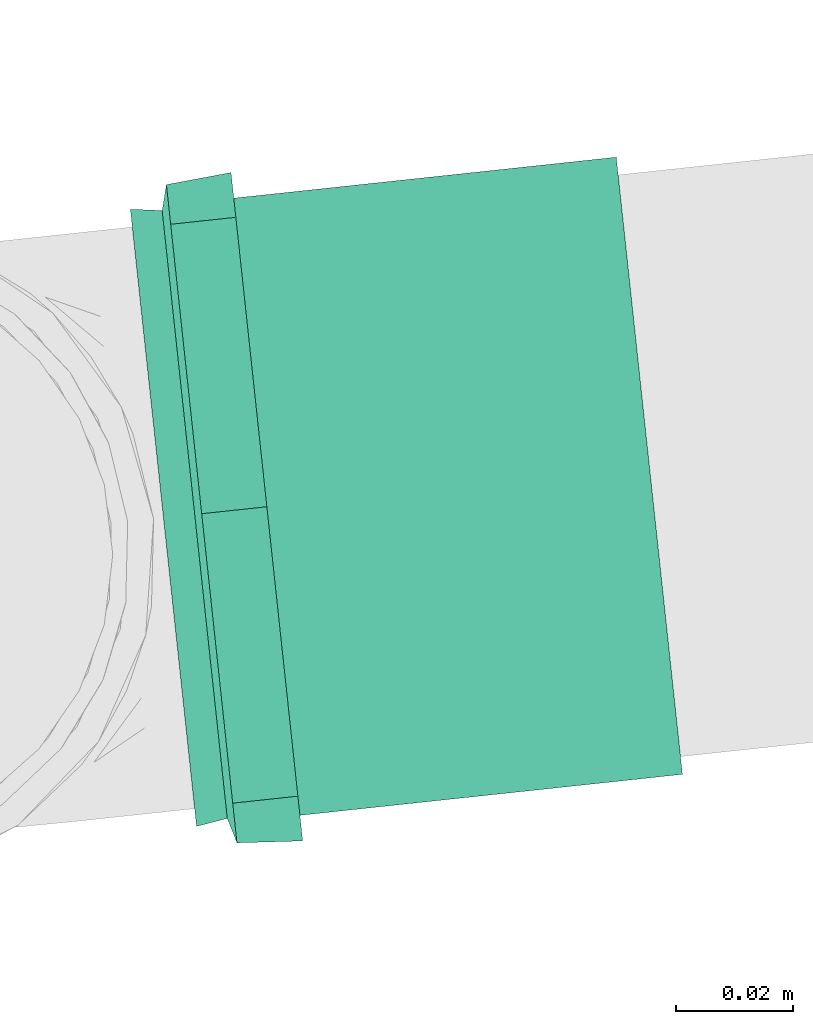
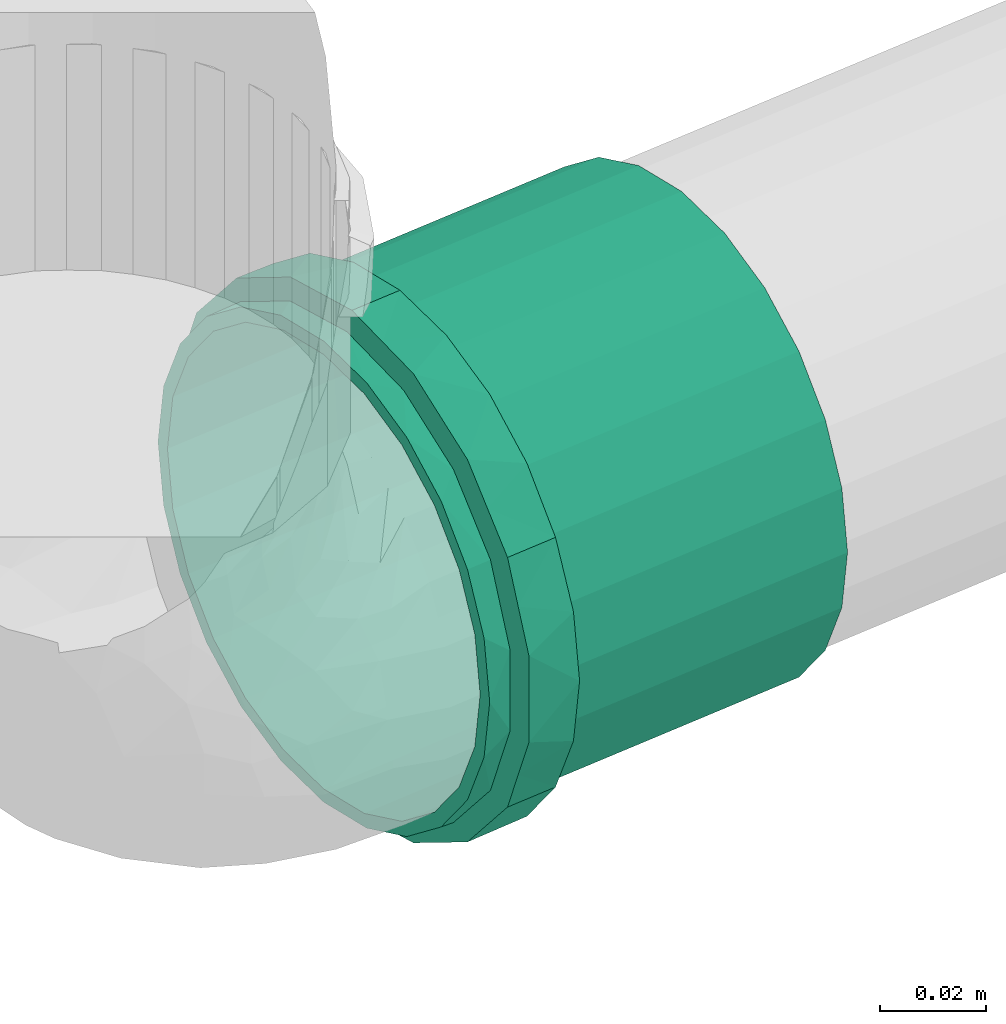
# One storey, part 44 of 97: 1 flow fitting.
"""IFC2X3 building model written with IfcOpenShell, lengths in centimetres."""

import ifcopenshell
import ifcopenshell.guid

model = None  # the IFC model being written
_history = None  # IfcOwnerHistory: only IFC2X3 demands one
_inside = {}  # id of a spatial element -> (the spatial element, [elements in it])
_under = {}  # id of a project, library or spatial element -> (it, [spatial elements below it])
_declared = {}  # id of a project -> (the project, [libraries it declares])
_typed = {}  # id of a type object -> (the type object, [elements of that type])
_made_of = {}  # id of a material, layer set ... -> (it, [elements and type objects made of it])


def new_model(schema):
    """Start an empty IFC model of exactly this schema.

    Asked for "IFC4X3", IfcOpenShell would pick the latest addendum, in which some entities
    have other attributes; the version numbers below select the first issue.
    IFC2X3 requires an IfcOwnerHistory on every rooted entity: one is made here for all.
    """
    global model, _history
    if schema == "IFC4X3":
        model = ifcopenshell.file(schema_version=(4, 3, 0, 0))
    else:
        model = ifcopenshell.file(schema=schema)
    _inside.clear()
    _under.clear()
    _declared.clear()
    _typed.clear()
    _made_of.clear()
    _history = None
    if model.schema == "IFC2X3":
        org = make("IfcOrganization", Name="unknown")
        user = make(
            "IfcPersonAndOrganization",
            ThePerson=make("IfcPerson", FamilyName="unknown"),
            TheOrganization=org,
        )
        app = make(
            "IfcApplication",
            ApplicationDeveloper=org,
            Version="unknown",
            ApplicationFullName="unknown",
            ApplicationIdentifier="unknown",
        )
        _history = make(
            "IfcOwnerHistory",
            OwningUser=user,
            OwningApplication=app,
            ChangeAction="ADDED",
            CreationDate=0,
        )
    return model


def make(cls, **values):
    """One entity of the class cls with the attributes given. An attribute that is None is left unset."""
    return model.create_entity(
        cls, **{name: value for name, value in values.items() if value is not None}
    )


def entity(cls, *values):
    """Any entity or typed value of the class cls, its attributes in the order of the schema. None: left unset."""
    e = model.create_entity(cls)
    for i, value in enumerate(values):
        if value is not None:
            e[i] = value
    return e


def rooted(cls, **values):
    """An entity with a GlobalId (a new one), such as an element, a storey or a relation."""
    return make(cls, GlobalId=ifcopenshell.guid.new(), OwnerHistory=_history, **values)


def si_unit(unit_type, name, prefix=None):
    """IfcSIUnit, for example si_unit("LENGTHUNIT", "METRE", prefix="MILLI")."""
    return make("IfcSIUnit", UnitType=unit_type, Prefix=prefix, Name=name)


def converted_unit(unit_type, name, factor, base, dimensions=None, offset=None):
    """IfcConversionBasedUnit, such as the inch: factor (a typed value) times the base unit."""
    return make(
        "IfcConversionBasedUnit"
        if offset is None
        else "IfcConversionBasedUnitWithOffset",
        ConversionOffset=offset,
        Dimensions=None
        if dimensions is None
        else entity("IfcDimensionalExponents", *dimensions),
        UnitType=unit_type,
        Name=name,
        ConversionFactor=make(
            "IfcMeasureWithUnit", ValueComponent=factor, UnitComponent=base
        ),
    )


def derived_unit(unit_type, elements):
    """IfcDerivedUnit: a product of units, each with its exponent."""
    return make(
        "IfcDerivedUnit",
        Elements=[
            make("IfcDerivedUnitElement", Unit=unit, Exponent=power)
            for unit, power in elements
        ],
        UnitType=unit_type,
    )


def assignment(units):
    """IfcUnitAssignment: the units of a project."""
    return None if units is None else make("IfcUnitAssignment", Units=units)


def point(xyz):
    """IfcCartesianPoint."""
    return None if xyz is None else make("IfcCartesianPoint", Coordinates=xyz)


def direction(xyz):
    """IfcDirection."""
    return None if xyz is None else make("IfcDirection", DirectionRatios=xyz)


def frame(location, z_axis=None, x_axis=None):
    """IfcAxis2Placement3D, a coordinate frame: its origin and axes. An axis left out is left unset."""
    return make(
        "IfcAxis2Placement3D",
        Location=point(location),
        Axis=direction(z_axis),
        RefDirection=direction(x_axis),
    )


def origin():
    """The frame at (0, 0, 0) with its axes left unset."""
    return frame((0.0, 0.0, 0.0))


def place(relative_to, where):
    """IfcLocalPlacement: puts the frame where relative to a parent placement (None: the world)."""
    return make(
        "IfcLocalPlacement", PlacementRelTo=relative_to, RelativePlacement=where
    )


def context(
    kind, dimensions, precision=None, world=None, true_north=None, identifier=None
):
    """IfcGeometricRepresentationContext, for example the 3D "Model" context."""
    return make(
        "IfcGeometricRepresentationContext",
        ContextIdentifier=identifier,
        ContextType=kind,
        CoordinateSpaceDimension=dimensions,
        Precision=precision,
        WorldCoordinateSystem=world,
        TrueNorth=true_north,
    )


def subcontext(parent, identifier, kind, view, scale=None):
    """IfcGeometricRepresentationSubContext, for example "Body" below "Model"."""
    return make(
        "IfcGeometricRepresentationSubContext",
        ContextIdentifier=identifier,
        ContextType=kind,
        ParentContext=parent,
        TargetScale=scale,
        TargetView=view,
    )


def project(units=None, contexts=None):
    """IfcProject with its units and contexts."""
    return rooted(
        "IfcProject",
        Name="project",
        RepresentationContexts=contexts,
        UnitsInContext=assignment(units),
    )


def spatial(cls, under=None, at=None, **own):
    """A site, building, storey or space (cls), placed at a placement, below another one or the project."""
    s = rooted(cls, ObjectPlacement=at, **own)
    if under is not None:
        _under.setdefault(under.id(), (under, []))[1].append(s)
    return s


def faces_of(points, faces, orient=None, outer=None):
    """IfcFace entities. A face is a list of loops; a loop is a list of indices into points, from 0.

    orient and outer hold one flag for each loop. By default every Orientation is true, the
    first loop of a face is its IfcFaceOuterBound and the others are IfcFaceBound.
    """
    made = []
    for i, loops in enumerate(faces):
        bounds = []
        for j, loop in enumerate(loops):
            is_outer = j == 0 if outer is None else outer[i][j]
            bounds.append(
                make(
                    "IfcFaceOuterBound" if is_outer else "IfcFaceBound",
                    Bound=make("IfcPolyLoop", Polygon=[points[k] for k in loop]),
                    Orientation=True if orient is None else orient[i][j],
                )
            )
        made.append(make("IfcFace", Bounds=bounds))
    return made


def faceted_brep(points, faces, orient=None, outer=None, voids=None):
    """IfcFacetedBrep: a solid bounded by flat faces; with voids (closed shells), ...WithVoids."""
    shared = [point(p) for p in points]
    hull = make("IfcClosedShell", CfsFaces=faces_of(shared, faces, orient, outer))
    if voids is None:
        return make("IfcFacetedBrep", Outer=hull)
    return make(
        "IfcFacetedBrepWithVoids",
        Outer=hull,
        Voids=[
            make(cls, CfsFaces=faces_of(shared, fs, o, b)) for cls, fs, o, b in voids
        ],
    )


def shape(context_of_items, identifier, shape_type, items):
    """IfcShapeRepresentation: the items that make up one representation, for example the "Body"."""
    return make(
        "IfcShapeRepresentation",
        ContextOfItems=context_of_items,
        RepresentationIdentifier=identifier,
        RepresentationType=shape_type,
        Items=items,
    )


def source(mapping_origin, context_of_items, identifier, shape_type, items):
    """IfcRepresentationMap: a shape defined once, which mapped items show again and again."""
    return make(
        "IfcRepresentationMap",
        MappingOrigin=mapping_origin,
        MappedRepresentation=shape(context_of_items, identifier, shape_type, items),
    )


def transform(
    local_origin,
    x_axis=None,
    y_axis=None,
    z_axis=None,
    scale=None,
    scale2=None,
    scale3=None,
    uniform=True,
):
    """IfcCartesianTransformationOperator3D, or its non-uniform kind. x_axis, y_axis, z_axis: its Axis1, 2, 3."""
    if uniform:
        return make(
            "IfcCartesianTransformationOperator3D",
            Axis1=direction(x_axis),
            Axis2=direction(y_axis),
            LocalOrigin=point(local_origin),
            Scale=scale,
            Axis3=direction(z_axis),
        )
    return make(
        "IfcCartesianTransformationOperator3DnonUniform",
        Axis1=direction(x_axis),
        Axis2=direction(y_axis),
        LocalOrigin=point(local_origin),
        Scale=scale,
        Axis3=direction(z_axis),
        Scale2=scale2,
        Scale3=scale3,
    )


def mapped(mapping_source, mapping_target):
    """IfcMappedItem: shows the shape of a source again, moved by a transform."""
    return make(
        "IfcMappedItem", MappingSource=mapping_source, MappingTarget=mapping_target
    )


def material(Name=None, Category=None):
    """IfcMaterial."""
    return make("IfcMaterial", Name=Name, Category=Category)


def made_of(thing, what):
    """Note that an element or type object is made of a material, layer set ...; save() writes the relation."""
    if what is not None:
        _made_of.setdefault(what.id(), (what, []))[1].append(thing)
    return thing


def type_object(cls, material=None, **own):
    """A type object (cls), such as IfcWallType, which elements share."""
    return made_of(rooted(cls, **own), material)


def type_shapes(of_type, sources):
    """Give a type object the sources (RepresentationMaps) that its elements show as mapped items."""
    of_type.RepresentationMaps = sources


def element(
    cls,
    number,
    at=None,
    inside=None,
    cuts=None,
    type_object=None,
    material=None,
    context=None,
    identifier="Body",
    shape_type=None,
    held_by="IfcProductDefinitionShape",
    body=None,
    shapes=None,
    **own,
):
    """One element of the class cls, such as IfcWall. Its Tag is "e" and its number.

    at: its placement. inside: the storey or other place that contains it. cuts: it is an
    opening in that element (IfcRelVoidsElement). A single representation is given by context,
    identifier, shape_type and body (its items); several are given by shapes. held_by: the class
    of the entity that holds the representations. save() writes the other relations.
    """
    e = rooted(cls, Tag="e%d" % number, ObjectPlacement=at, **own)
    if body is not None:
        shapes = [shape(context, identifier, shape_type, body)]
    if shapes is not None:
        e.Representation = make(held_by, Representations=shapes)
    if inside is not None:
        _inside.setdefault(inside.id(), (inside, []))[1].append(e)
    if cuts is not None:
        rooted(
            "IfcRelVoidsElement", RelatingBuildingElement=cuts, RelatedOpeningElement=e
        )
    if type_object is not None:
        _typed.setdefault(type_object.id(), (type_object, []))[1].append(e)
    return made_of(e, material)


def aggregate(whole, parts):
    """IfcRelAggregates: a whole, such as a stair, and the parts it consists of."""
    return rooted("IfcRelAggregates", RelatingObject=whole, RelatedObjects=parts)


def save(model, path):
    """Write the relations noted so far, then the file.

    IfcRelAggregates (storeys below a building ...), IfcRelContainedInSpatialStructure (elements
    in a storey), IfcRelDefinesByType, IfcRelAssociatesMaterial and IfcRelDeclares: one each for
    every whole, place, type object, material and project.
    """
    for whole, parts in _under.values():
        aggregate(whole, parts)
    for where, things in _inside.values():
        rooted(
            "IfcRelContainedInSpatialStructure",
            RelatedElements=things,
            RelatingStructure=where,
        )
    for kind, things in _typed.values():
        rooted("IfcRelDefinesByType", RelatedObjects=things, RelatingType=kind)
    for what, things in _made_of.values():
        rooted("IfcRelAssociatesMaterial", RelatedObjects=things, RelatingMaterial=what)
    for by, libraries in _declared.values():
        rooted("IfcRelDeclares", RelatingContext=by, RelatedDefinitions=libraries)
    model.write(path)


model = new_model("IFC2X3")

# Units and contexts
model_context = context("Model", 3, precision=0.001, world=origin(), true_north=direction((6.12303176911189e-17, 1.0)))
body_context = subcontext(model_context, "Body", "Model", "MODEL_VIEW")
ifc_project = project(units=[si_unit("LENGTHUNIT", "METRE", prefix="CENTI"), si_unit("AREAUNIT", "SQUARE_METRE"), si_unit("VOLUMEUNIT", "CUBIC_METRE"), converted_unit("PLANEANGLEUNIT", "DEGREE", entity("IfcRatioMeasure", 0.0174532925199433), si_unit("PLANEANGLEUNIT", "RADIAN"), dimensions=[0, 0, 0, 0, 0, 0, 0]), si_unit("MASSUNIT", "GRAM", prefix="KILO"), derived_unit("MASSDENSITYUNIT", [(si_unit("MASSUNIT", "GRAM", prefix="KILO"), 1), (si_unit("LENGTHUNIT", "METRE"), -3)]), derived_unit("MOMENTOFINERTIAUNIT", [(si_unit("LENGTHUNIT", "METRE"), 4)]), si_unit("TIMEUNIT", "SECOND"), si_unit("FREQUENCYUNIT", "HERTZ"), si_unit("THERMODYNAMICTEMPERATUREUNIT", "DEGREE_CELSIUS"), derived_unit("THERMALTRANSMITTANCEUNIT", [(si_unit("MASSUNIT", "GRAM", prefix="KILO"), 1), (si_unit("THERMODYNAMICTEMPERATUREUNIT", "KELVIN"), -1), (si_unit("TIMEUNIT", "SECOND"), -3)]), derived_unit("VOLUMETRICFLOWRATEUNIT", [(si_unit("LENGTHUNIT", "METRE"), 3), (si_unit("TIMEUNIT", "SECOND"), -1)]), si_unit("ELECTRICCURRENTUNIT", "AMPERE"), si_unit("ELECTRICVOLTAGEUNIT", "VOLT"), si_unit("POWERUNIT", "WATT"), si_unit("FORCEUNIT", "NEWTON", prefix="KILO"), si_unit("ILLUMINANCEUNIT", "LUX"), si_unit("LUMINOUSFLUXUNIT", "LUMEN"), si_unit("LUMINOUSINTENSITYUNIT", "CANDELA"), derived_unit("USERDEFINED", [(si_unit("MASSUNIT", "GRAM", prefix="KILO"), -1), (si_unit("LENGTHUNIT", "METRE"), -2), (si_unit("TIMEUNIT", "SECOND"), 3), (si_unit("LUMINOUSFLUXUNIT", "LUMEN"), 1)]), derived_unit("LINEARVELOCITYUNIT", [(si_unit("LENGTHUNIT", "METRE"), 1), (si_unit("TIMEUNIT", "SECOND"), -1)]), si_unit("PRESSUREUNIT", "PASCAL"), derived_unit("USERDEFINED", [(si_unit("LENGTHUNIT", "METRE"), -2), (si_unit("MASSUNIT", "GRAM", prefix="KILO"), 1), (si_unit("TIMEUNIT", "SECOND"), -2)]), derived_unit("LINEARFORCEUNIT", [(si_unit("MASSUNIT", "GRAM", prefix="KILO"), 1), (si_unit("LENGTHUNIT", "METRE"), 1), (si_unit("TIMEUNIT", "SECOND"), -2), (si_unit("LENGTHUNIT", "METRE"), -1)]), derived_unit("PLANARFORCEUNIT", [(si_unit("MASSUNIT", "GRAM", prefix="KILO"), 1), (si_unit("LENGTHUNIT", "METRE"), 1), (si_unit("TIMEUNIT", "SECOND"), -2), (si_unit("LENGTHUNIT", "METRE"), -2)])], contexts=[model_context])

# Site, building, storey
site_placement = place(None, origin())
site = spatial("IfcSite", under=ifc_project, at=site_placement, Name="Default", CompositionType="ELEMENT")
building_placement = place(site_placement, origin())
building = spatial("IfcBuilding", under=site, at=building_placement, Name="HIDROSSANITÁRIO", CompositionType="ELEMENT")
storey_placement = place(building_placement, frame((0.0, 0.0, -260.0)))
storey = spatial("IfcBuildingStorey", under=building, at=storey_placement, Name="TÉRREO-HID", CompositionType="ELEMENT", Elevation=-260.0)

# Flow fitting
ifc_material = material(Name="PVC Branco")
pipe_fitting_type = type_object("IfcPipeFittingType", Name="Luva Simples para Conexão - Serie Normal - Esgoto - MEP - Tigre:Standard", PredefinedType="NOTDEFINED", material=ifc_material)
shared_shape = source(origin(), body_context, "Body", "Brep", [
    faceted_brep([(1.77700000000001, 2.8725, -4.9753159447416), (1.77700000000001, 4.06232845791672, -4.06232845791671), (1.77700000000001, 2.65249999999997, -4.59426476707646), (1.77700000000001, 1.37303503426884, -5.12423650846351), (1.77700000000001, 1.48691541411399, -5.5492438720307), (1.77700000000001, 3.75120147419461, -3.75120147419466), (1.77700000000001, 4.9753159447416, -2.8725), (1.77700000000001, 4.59426476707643, -2.65250000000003), (1.77700000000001, 5.1242365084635, -1.37303503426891), (1.77700000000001, 5.5492438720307, -1.48691541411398), (1.77700000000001, 5.305, 0.0), (1.77700000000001, 5.745, 0.0), (1.77700000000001, 5.1242365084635, 1.3730350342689), (1.77700000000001, 5.54924387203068, 1.48691541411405), (1.77700000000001, 4.59426476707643, 2.65250000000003), (1.77700000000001, 4.97531594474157, 2.87250000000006), (1.77700000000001, 3.75120147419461, 3.75120147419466), (1.77700000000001, 4.06232845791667, 4.06232845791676), (1.77700000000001, 2.65249999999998, 4.59426476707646), (1.77700000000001, 2.87249999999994, 4.97531594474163), (1.77700000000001, 1.37303503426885, 5.12423650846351), (1.77700000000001, 1.48691541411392, 5.54924387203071), (1.77700000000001, 0.0, 5.305), (1.77700000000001, 0.0, 5.745), (1.77700000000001, -1.37303503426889, 5.1242365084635), (1.77700000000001, -1.48691541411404, 5.54924387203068), (1.77700000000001, -2.65250000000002, 4.59426476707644), (1.77700000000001, -2.87250000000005, 4.97531594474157), (1.77700000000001, -3.75120147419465, 3.75120147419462), (1.77700000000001, -4.06232845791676, 4.06232845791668), (1.77700000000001, -4.59426476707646, 2.65249999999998), (1.77700000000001, -4.97531594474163, 2.87249999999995), (1.77700000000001, -5.54924387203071, 1.48691541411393), (1.77700000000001, -5.12423650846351, 1.37303503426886), (1.77700000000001, -5.745, 0.0), (1.77700000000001, -5.305, 0.0), (1.77700000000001, -5.54924387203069, -1.486915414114), (1.77700000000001, -5.12423650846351, -1.37303503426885), (1.77700000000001, -4.97531594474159, -2.87250000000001), (1.77700000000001, -4.59426476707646, -2.65249999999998), (1.77700000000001, -4.06232845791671, -4.06232845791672), (1.77700000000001, -3.75120147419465, -3.75120147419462), (1.77700000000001, -2.87249999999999, -4.97531594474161), (1.77700000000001, -2.65250000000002, -4.59426476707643), (1.77700000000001, -1.48691541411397, -5.5492438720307), (1.77700000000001, -1.3730350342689, -5.1242365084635), (1.77700000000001, 0.0, -5.745), (1.77700000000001, 0.0, -5.305), (0.657000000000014, -1.93463887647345, 5.31665771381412), (0.657000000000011, -4.4007619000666, 3.69300957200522), (0.657000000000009, -4.89962626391, 2.82901737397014), (0.657000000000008, -5.39849062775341, 1.96502517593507), (0.657000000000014, -2.87216972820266, 4.97550661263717), (0.657000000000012, -3.63646581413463, 4.3342580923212), (0.657000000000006, -5.5717453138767, 0.982512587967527), (0.657000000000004, -5.745, 0.0), (0.657000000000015, -0.997108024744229, 5.65780881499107), (0.657000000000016, 0.998234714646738, 5.65761013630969), (0.657000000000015, 0.0005633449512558, 5.65770947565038), (0.657000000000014, 3.63732887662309, 4.33353383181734), (0.657000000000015, 1.93569761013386, 5.31627233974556), (0.657000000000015, 2.87316050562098, 4.97493454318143), (0.65700000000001, 5.39888184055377, 1.96395006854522), (0.657000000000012, 4.90018954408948, 2.82804159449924), (0.657000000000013, 4.40149724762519, 3.69213312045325), (0.657000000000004, 5.745, 0.0), (0.656999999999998, 4.40149724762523, -3.6921331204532), (0.657, 4.90018954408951, -2.82804159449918), (0.657000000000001, 5.39888184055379, -1.96395006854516), (0.656999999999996, 2.87316050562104, -4.9749345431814), (0.656999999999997, 3.63732887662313, -4.3335338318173), (0.656999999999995, 1.93569761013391, -5.31627233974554), (0.656999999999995, 0.998234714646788, -5.65761013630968), (0.656999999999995, -0.997108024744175, -5.65780881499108), (0.656999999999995, 0.000563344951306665, -5.65770947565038), (0.656999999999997, -3.6364658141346, -4.33425809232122), (0.656999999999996, -2.87216972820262, -4.9755066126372), (0.656999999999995, -1.9346388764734, -5.31665771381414), (0.657000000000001, -5.39849062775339, -1.96502517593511), (0.657, -4.89962626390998, -2.82901737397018), (0.656999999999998, -4.40076190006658, -3.69300957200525), (0.657000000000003, -5.5717453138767, -0.982512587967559), (8.35200000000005, 2.6525, -4.59426476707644), (8.35200000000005, 3.75120147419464, -3.75120147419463), (8.35200000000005, 2.49999999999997, -4.33012701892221), (8.35200000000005, 1.29409522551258, -4.82962913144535), (8.35200000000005, 1.37303503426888, -5.1242365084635), (8.35200000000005, 3.53553390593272, -3.53553390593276), (8.35200000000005, 4.59426476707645, -2.6525), (8.35200000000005, 4.33012701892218, -2.50000000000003), (8.35200000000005, 4.82962913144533, -1.29409522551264), (8.35200000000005, 5.12423650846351, -1.37303503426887), (8.35200000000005, 5.0, 0.0), (8.35200000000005, 5.305, 0.0), (8.35200000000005, 4.82962913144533, 1.29409522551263), (8.35200000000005, 5.12423650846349, 1.37303503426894), (8.35200000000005, 4.33012701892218, 2.50000000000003), (8.35200000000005, 4.59426476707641, 2.65250000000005), (8.35200000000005, 3.53553390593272, 3.53553390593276), (8.35200000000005, 3.75120147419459, 3.75120147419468), (8.35200000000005, 2.49999999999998, 4.33012701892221), (8.35200000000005, 2.65249999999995, 4.59426476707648), (8.35200000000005, 1.29409522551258, 4.82962913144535), (8.35200000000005, 1.37303503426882, 5.12423650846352), (8.35200000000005, 0.0, 5.0), (8.35200000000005, 0.0, 5.305), (8.35200000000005, -1.29409522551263, 4.82962913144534), (8.35200000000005, -1.37303503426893, 5.12423650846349), (8.35200000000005, -2.50000000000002, 4.33012701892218), (8.35200000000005, -2.65250000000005, 4.59426476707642), (8.35200000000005, -3.53553390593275, 3.53553390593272), (8.35200000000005, -3.75120147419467, 3.7512014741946), (8.35200000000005, -4.3301270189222, 2.49999999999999), (8.35200000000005, -4.59426476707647, 2.65249999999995), (8.35200000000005, -5.12423650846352, 1.37303503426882), (8.35200000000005, -4.82962913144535, 1.29409522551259), (8.35200000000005, -5.305, 0.0), (8.35200000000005, -5.0, 0.0), (8.35200000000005, -5.1242365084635, -1.37303503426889), (8.35200000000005, -4.82962913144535, -1.29409522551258), (8.35200000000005, -4.59426476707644, -2.65250000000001), (8.35200000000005, -4.3301270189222, -2.49999999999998), (8.35200000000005, -3.75120147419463, -3.75120147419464), (8.35200000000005, -3.53553390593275, -3.53553390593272), (8.35200000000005, -2.65249999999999, -4.59426476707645), (8.35200000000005, -2.50000000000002, -4.33012701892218), (8.35200000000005, -1.37303503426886, -5.12423650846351), (8.35200000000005, -1.29409522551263, -4.82962913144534), (8.35200000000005, 0.0, -5.305), (8.35200000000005, 0.0, -5.0), (0.0, 2.49999999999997, -4.33012701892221), (0.0, 3.75120147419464, -3.75120147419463), (0.0, 2.6525, -4.59426476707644), (0.0, 1.29409522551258, -4.82962913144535), (0.0, 3.53553390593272, -3.53553390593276), (0.0, 4.59426476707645, -2.6525), (0.0, 4.33012701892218, -2.50000000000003), (0.0, 4.82962913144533, -1.29409522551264), (0.0, 5.12423650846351, -1.37303503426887), (0.0, 5.0, 0.0), (0.0, 5.305, 0.0), (0.0, 4.82962913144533, 1.29409522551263), (0.0, 5.12423650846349, 1.37303503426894), (0.0, 4.33012701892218, 2.50000000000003), (0.0, 4.59426476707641, 2.65250000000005), (0.0, 3.53553390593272, 3.53553390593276), (0.0, 3.75120147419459, 3.75120147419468), (0.0, 2.49999999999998, 4.33012701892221), (0.0, 2.65249999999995, 4.59426476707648), (0.0, 1.29409522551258, 4.82962913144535), (0.0, 1.37303503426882, 5.12423650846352), (0.0, 0.0, 5.0), (0.0, 0.0, 5.305), (0.0, -1.29409522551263, 4.82962913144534), (0.0, -1.37303503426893, 5.12423650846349), (0.0, -2.50000000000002, 4.33012701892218), (0.0, -2.65250000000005, 4.59426476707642), (0.0, -3.53553390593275, 3.53553390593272), (0.0, -3.75120147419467, 3.7512014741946), (0.0, -4.3301270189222, 2.49999999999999), (0.0, -4.59426476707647, 2.65249999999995), (0.0, -5.12423650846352, 1.37303503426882), (0.0, -4.82962913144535, 1.29409522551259), (0.0, -5.305, 0.0), (0.0, -5.0, 0.0), (0.0, -5.1242365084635, -1.37303503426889), (0.0, -4.82962913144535, -1.29409522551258), (0.0, -4.59426476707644, -2.65250000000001), (0.0, -4.3301270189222, -2.49999999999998), (0.0, -3.75120147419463, -3.75120147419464), (0.0, -3.53553390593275, -3.53553390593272), (0.0, -2.65249999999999, -4.59426476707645), (0.0, -2.50000000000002, -4.33012701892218), (0.0, -1.37303503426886, -5.12423650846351), (0.0, -1.29409522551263, -4.82962913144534), (0.0, 0.0, -5.305), (0.0, 0.0, -5.0), (0.0, 1.37303503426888, -5.1242365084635), (0.537000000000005, -5.305, 0.0), (0.537000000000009, -4.98507989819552, 1.81438788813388), (0.537000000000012, -4.06390540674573, 3.4099410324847), (0.537000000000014, -2.65258010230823, 4.59421851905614), (0.537000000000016, -0.921325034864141, 5.22438371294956), (0.537000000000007, 5.1449924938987, 0.907324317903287), (0.537000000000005, 5.305, 0.0), (0.537000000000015, 2.65233979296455, 4.59435725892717), (0.537000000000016, 0.921051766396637, 5.22443189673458), (0.537000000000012, 4.06372704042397, 3.41015359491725), (0.537000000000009, 4.9849849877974, 1.81464863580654), (0.537000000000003, 5.14499249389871, -0.907324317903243), (0.537000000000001, 4.98498498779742, -1.81464863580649), (0.536999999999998, 4.063727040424, -3.41015359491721), (0.536999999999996, 2.6523397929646, -4.59435725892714), (0.536999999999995, 0.921051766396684, -5.22443189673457), (0.536999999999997, -2.6525801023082, -4.59421851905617), (0.536999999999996, -0.921325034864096, -5.22438371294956), (0.536999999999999, -4.0639054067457, -3.40994103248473), (0.537000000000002, -4.98507989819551, -1.81438788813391), (5.0, -5.0, 0.0), (5.0, 5.0, 0.0)], [[[0, 1, 2]], [[0, 2, 3]], [[3, 4, 0]], [[2, 1, 5]], [[6, 5, 1]], [[5, 6, 7]], [[7, 6, 8]], [[9, 8, 6]], [[9, 10, 8]], [[10, 9, 11]], [[12, 10, 11]], [[11, 13, 12]], [[12, 13, 14]], [[15, 14, 13]], [[14, 15, 16]], [[16, 15, 17]], [[18, 16, 17]], [[17, 19, 18]], [[18, 19, 20]], [[21, 20, 19]], [[20, 21, 22]], [[22, 21, 23]], [[22, 23, 24]], [[24, 23, 25]], [[24, 25, 26]], [[27, 26, 25]], [[27, 28, 26]], [[28, 27, 29]], [[29, 30, 28]], [[31, 30, 29]], [[30, 31, 32]], [[32, 33, 30]], [[34, 33, 32]], [[34, 35, 33]], [[36, 35, 34]], [[36, 37, 35]], [[37, 36, 38]], [[38, 39, 37]], [[39, 38, 40]], [[39, 40, 41]], [[40, 42, 41]], [[41, 42, 43]], [[43, 42, 44]], [[44, 45, 43]], [[46, 45, 44]], [[4, 47, 46]], [[46, 47, 45]], [[4, 3, 47]], [[48, 27, 25]], [[31, 29, 49]], [[31, 49, 50, 51]], [[52, 53, 27]], [[32, 51, 54]], [[54, 55, 34]], [[54, 34, 32]], [[25, 56, 48]], [[49, 29, 53]], [[23, 57, 58, 56]], [[59, 19, 17]], [[27, 53, 29]], [[48, 52, 27]], [[31, 51, 32]], [[57, 23, 21]], [[60, 19, 61]], [[15, 62, 63, 64]], [[19, 60, 21]], [[15, 13, 62]], [[17, 64, 59]], [[57, 21, 60]], [[23, 56, 25]], [[15, 64, 17]], [[13, 65, 62]], [[13, 11, 65]], [[59, 61, 19]], [[65, 11, 9]], [[6, 1, 66]], [[6, 66, 67, 68]], [[69, 70, 0]], [[68, 65, 9]], [[71, 69, 0]], [[71, 0, 4]], [[4, 72, 71]], [[66, 1, 70]], [[46, 73, 74, 72]], [[75, 76, 42]], [[0, 70, 1]], [[75, 42, 40]], [[6, 68, 9]], [[73, 46, 44]], [[77, 42, 76]], [[38, 78, 79, 80]], [[42, 77, 44]], [[38, 36, 78]], [[40, 80, 75]], [[73, 44, 77]], [[46, 72, 4]], [[38, 80, 40]], [[81, 78, 36]], [[55, 81, 34]], [[34, 81, 36]], [[82, 83, 84]], [[82, 84, 85]], [[85, 86, 82]], [[84, 83, 87]], [[88, 87, 83]], [[87, 88, 89]], [[89, 88, 90]], [[91, 90, 88]], [[91, 92, 90]], [[92, 91, 93]], [[94, 92, 93]], [[93, 95, 94]], [[94, 95, 96]], [[97, 96, 95]], [[96, 97, 98]], [[98, 97, 99]], [[100, 98, 99]], [[99, 101, 100]], [[100, 101, 102]], [[103, 102, 101]], [[102, 103, 104]], [[104, 103, 105]], [[104, 105, 106]], [[106, 105, 107]], [[106, 107, 108]], [[109, 108, 107]], [[110, 108, 109]], [[110, 109, 111]], [[111, 112, 110]], [[113, 112, 111]], [[112, 113, 114]], [[114, 115, 112]], [[116, 115, 114]], [[116, 117, 115]], [[118, 117, 116]], [[118, 119, 117]], [[119, 118, 120]], [[120, 121, 119]], [[121, 120, 122]], [[121, 122, 123]], [[122, 124, 123]], [[125, 123, 124]], [[125, 124, 126]], [[126, 127, 125]], [[128, 127, 126]], [[86, 129, 128]], [[128, 129, 127]], [[86, 85, 129]], [[130, 131, 132]], [[133, 130, 132]], [[134, 131, 130]], [[131, 134, 135]], [[136, 135, 134]], [[137, 135, 136]], [[135, 137, 138]], [[137, 139, 138]], [[140, 138, 139]], [[140, 139, 141]], [[141, 142, 140]], [[143, 142, 141]], [[142, 143, 144]], [[145, 144, 143]], [[146, 144, 145]], [[146, 145, 147]], [[147, 148, 146]], [[149, 148, 147]], [[148, 149, 150]], [[151, 150, 149]], [[152, 150, 151]], [[153, 152, 151]], [[154, 152, 153]], [[155, 154, 153]], [[154, 155, 156]], [[156, 155, 157]], [[158, 156, 157]], [[157, 159, 158]], [[158, 159, 160]], [[161, 160, 159]], [[159, 162, 161]], [[161, 162, 163]], [[162, 164, 163]], [[163, 164, 165]], [[164, 166, 165]], [[167, 165, 166]], [[166, 168, 167]], [[169, 167, 168]], [[170, 169, 168]], [[170, 171, 169]], [[171, 170, 172]], [[173, 171, 172]], [[172, 174, 173]], [[173, 174, 175]], [[174, 176, 175]], [[176, 133, 177]], [[175, 176, 177]], [[132, 177, 133]], [[161, 178, 179]], [[158, 180, 181]], [[179, 180, 160]], [[181, 182, 154]], [[179, 160, 161]], [[161, 163, 178]], [[35, 116, 114, 33]], [[183, 184, 140]], [[181, 156, 158]], [[158, 160, 180]], [[181, 154, 156]], [[182, 152, 154]], [[183, 140, 142]], [[185, 150, 186]], [[187, 146, 185]], [[142, 188, 183]], [[187, 188, 144]], [[185, 148, 150]], [[150, 152, 186]], [[187, 144, 146]], [[146, 148, 185]], [[188, 142, 144]], [[186, 152, 182]], [[189, 190, 138]], [[131, 191, 192]], [[190, 191, 135]], [[192, 193, 177]], [[190, 135, 138]], [[184, 189, 140]], [[192, 132, 131]], [[131, 135, 191]], [[192, 177, 132]], [[193, 175, 177]], [[140, 189, 138]], [[194, 173, 195]], [[196, 169, 194]], [[165, 197, 178]], [[196, 197, 167]], [[165, 178, 163]], [[35, 37, 118, 116]], [[194, 171, 173]], [[173, 175, 195]], [[196, 167, 169]], [[169, 171, 194]], [[197, 165, 167]], [[195, 175, 193]], [[115, 117, 198, 164, 162]], [[155, 108, 110, 157]], [[110, 112, 159, 157]], [[112, 115, 162, 159]], [[106, 108, 155, 153]], [[153, 151, 104, 106]], [[102, 104, 151, 149]], [[102, 149, 147, 100]], [[141, 94, 96, 143]], [[96, 98, 145, 143]], [[98, 100, 147, 145]], [[92, 94, 141, 139, 199]], [[199, 139, 137, 90, 92]], [[87, 89, 136, 134]], [[134, 130, 84, 87]], [[89, 90, 137, 136]], [[85, 84, 130, 133]], [[133, 176, 129, 85]], [[127, 129, 176, 174]], [[127, 174, 172, 125]], [[166, 119, 121, 168]], [[121, 123, 170, 168]], [[123, 125, 172, 170]], [[117, 119, 166, 164, 198]], [[81, 178, 197]], [[190, 68, 67]], [[194, 75, 196]], [[193, 72, 74]], [[195, 77, 194]], [[79, 197, 196]], [[81, 55, 178]], [[192, 69, 71]], [[79, 78, 197]], [[194, 77, 76]], [[191, 66, 70]], [[80, 196, 75]], [[68, 190, 189]], [[74, 195, 193]], [[192, 71, 193]], [[190, 67, 191]], [[70, 192, 191]], [[65, 189, 184]], [[195, 73, 77]], [[193, 71, 72]], [[197, 78, 81]], [[191, 67, 66]], [[189, 65, 68]], [[196, 80, 79]], [[70, 69, 192]], [[194, 76, 75]], [[73, 195, 74]], [[65, 183, 62]], [[48, 56, 182]], [[58, 182, 56]], [[54, 51, 179]], [[59, 185, 61]], [[60, 186, 57]], [[53, 52, 181]], [[63, 187, 64]], [[58, 57, 186]], [[187, 63, 188]], [[186, 60, 185]], [[50, 49, 180]], [[185, 59, 187]], [[59, 64, 187]], [[182, 58, 186]], [[50, 179, 51]], [[54, 178, 55]], [[53, 180, 49]], [[63, 62, 188]], [[181, 48, 182]], [[183, 65, 184]], [[179, 50, 180]], [[178, 54, 179]], [[183, 188, 62]], [[180, 53, 181]], [[60, 61, 185]], [[48, 181, 52]], [[30, 33, 114, 113]], [[26, 28, 111, 109]], [[113, 111, 28, 30]], [[107, 24, 26, 109]], [[107, 105, 22, 24]], [[18, 20, 103, 101]], [[99, 16, 18, 101]], [[12, 14, 97, 95]], [[99, 97, 14, 16]], [[10, 12, 95, 93]], [[103, 20, 22, 105]], [[91, 8, 10, 93]], [[88, 7, 8, 91]], [[82, 86, 3, 2]], [[83, 5, 7, 88]], [[2, 5, 83, 82]], [[86, 128, 47, 3]], [[43, 45, 126, 124]], [[122, 41, 43, 124]], [[37, 39, 120, 118]], [[122, 120, 39, 41]], [[126, 45, 47, 128]]]),
])
type_shapes(pipe_fitting_type, [shared_shape])
flow_fitting_placement = place(storey_placement, frame((2641.43209743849, 2831.12895139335, 460.5), z_axis=(-0.106567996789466, 0.994305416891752, 0.0), x_axis=(0.994305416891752, 0.106567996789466, 0.0)))
element("IfcFlowFitting", 1, at=flow_fitting_placement, inside=storey, type_object=pipe_fitting_type, material=ifc_material, Name="Luva Simples para Conexão - Serie Normal - Esgoto - MEP - Tigre:Standard", ObjectType="Luva Simples para Conexão - Serie Normal - Esgoto - MEP - Tigre:Standard", context=body_context, shape_type="MappedRepresentation", body=[
    mapped(shared_shape, transform((0.0, 0.0, 0.0), scale=1.0)),
])

save(model, "model.ifc")
